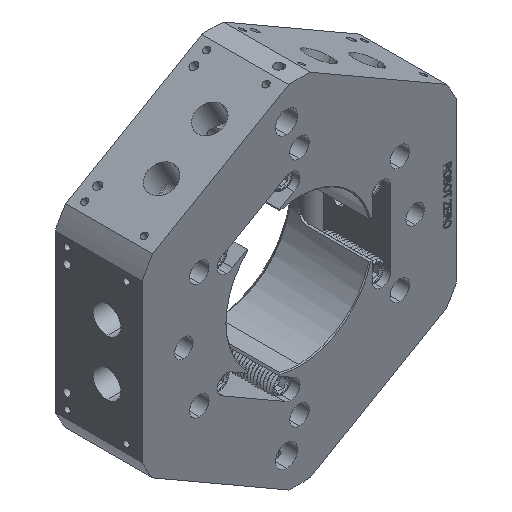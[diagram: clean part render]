
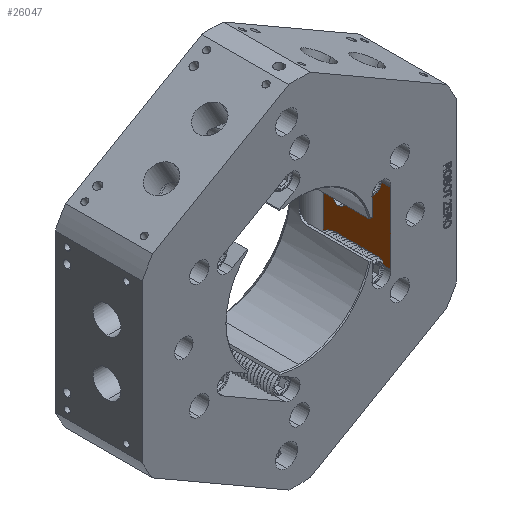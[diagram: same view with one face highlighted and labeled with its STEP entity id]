
A CAD part, isometric view. The second image highlights one B-rep face of the part: STEP entity #26047.
In plain terms, the highlighted planar face has unit normal (-1, 0, 0).
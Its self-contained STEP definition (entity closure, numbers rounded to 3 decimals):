
#208 = CARTESIAN_POINT ( 'NONE',  ( 49.28, 37.042, 20. ) ) ;
#289 = EDGE_CURVE ( 'NONE', #32047, #23185, #30197, .T. ) ;
#1299 = CARTESIAN_POINT ( 'NONE',  ( 49.28, 28., -3.4 ) ) ;
#1424 = CARTESIAN_POINT ( 'NONE',  ( 49.28, 37., 19.158 ) ) ;
#1519 = ORIENTED_EDGE ( 'NONE', *, *, #7314, .F. ) ;
#1543 = CARTESIAN_POINT ( 'NONE',  ( 49.28, 37., -19.158 ) ) ;
#2027 = CARTESIAN_POINT ( 'NONE',  ( 49.28, 43.62, 20. ) ) ;
#2578 = EDGE_CURVE ( 'NONE', #31906, #29662, #7698, .T. ) ;
#2931 = EDGE_CURVE ( 'NONE', #4708, #33048, #12475, .T. ) ;
#3308 = CARTESIAN_POINT ( 'NONE',  ( 49.28, 0., -19.158 ) ) ;
#4077 = AXIS2_PLACEMENT_3D ( 'NONE', #32969, #8544, #24964 ) ;
#4100 = DIRECTION ( 'NONE',  ( 0., -1., 0. ) ) ;
#4302 = ORIENTED_EDGE ( 'NONE', *, *, #2931, .F. ) ;
#4462 = CARTESIAN_POINT ( 'NONE',  ( 49.28, 0., 19.158 ) ) ;
#4482 = ORIENTED_EDGE ( 'NONE', *, *, #15899, .T. ) ;
#4708 = VERTEX_POINT ( 'NONE', #27405 ) ;
#5338 = VECTOR ( 'NONE', #27669, 1000. ) ;
#5803 = EDGE_CURVE ( 'NONE', #28402, #16219, #7535, .T. ) ;
#6391 = ORIENTED_EDGE ( 'NONE', *, *, #33456, .F. ) ;
#6454 = EDGE_LOOP ( 'NONE', ( #25505, #1519 ) ) ;
#6629 = CARTESIAN_POINT ( 'NONE',  ( 49.28, 38.59, 20. ) ) ;
#6752 = CARTESIAN_POINT ( 'NONE',  ( 49.28, 37.042, -20. ) ) ;
#6801 = ORIENTED_EDGE ( 'NONE', *, *, #7445, .F. ) ;
#6925 = LINE ( 'NONE', #14420, #8112 ) ;
#7028 = FACE_OUTER_BOUND ( 'NONE', #30229, .T. ) ;
#7314 = EDGE_CURVE ( 'NONE', #12530, #15115, #7982, .T. ) ;
#7445 = EDGE_CURVE ( 'NONE', #29662, #4708, #13825, .T. ) ;
#7535 = LINE ( 'NONE', #7722, #16758 ) ;
#7698 = LINE ( 'NONE', #16435, #9897 ) ;
#7722 = CARTESIAN_POINT ( 'NONE',  ( 49.28, 0., -19.158 ) ) ;
#7982 = CIRCLE ( 'NONE', #10820, 3.4 ) ;
#8112 = VECTOR ( 'NONE', #19967, 1000. ) ;
#8234 = DIRECTION ( 'NONE',  ( 0., -1., 0. ) ) ;
#8248 = DIRECTION ( 'NONE',  ( 0., -1., 0. ) ) ;
#8544 = DIRECTION ( 'NONE',  ( -1., 0., 0. ) ) ;
#8871 = EDGE_CURVE ( 'NONE', #15115, #12530, #31969, .T. ) ;
#9432 = CARTESIAN_POINT ( 'NONE',  ( 49.28, 37.028, -19.437 ) ) ;
#9897 = VECTOR ( 'NONE', #8234, 1000. ) ;
#10820 = AXIS2_PLACEMENT_3D ( 'NONE', #16958, #27870, #27509 ) ;
#11050 = LINE ( 'NONE', #21762, #5338 ) ;
#12475 = LINE ( 'NONE', #31040, #27078 ) ;
#12530 = VERTEX_POINT ( 'NONE', #21622 ) ;
#13742 = CARTESIAN_POINT ( 'NONE',  ( 49.28, 38.59, -20. ) ) ;
#13825 = B_SPLINE_CURVE_WITH_KNOTS ( 'NONE', 3,
 ( #17118, #14437, #25875, #1424 ),
 .UNSPECIFIED., .F., .F.,
 ( 4, 4 ),
 ( 0.002, 0.003 ),
 .UNSPECIFIED. ) ;
#13942 = CARTESIAN_POINT ( 'NONE',  ( 49.28, 43.62, -20. ) ) ;
#14420 = CARTESIAN_POINT ( 'NONE',  ( 49.28, 38.59, 20. ) ) ;
#14437 = CARTESIAN_POINT ( 'NONE',  ( 49.28, 37.042, 19.72 ) ) ;
#14776 = B_SPLINE_CURVE_WITH_KNOTS ( 'NONE', 3,
 ( #29063, #9432, #17458, #6752 ),
 .UNSPECIFIED., .F., .F.,
 ( 4, 4 ),
 ( 0.014, 0.015 ),
 .UNSPECIFIED. ) ;
#15115 = VERTEX_POINT ( 'NONE', #1299 ) ;
#15220 = ORIENTED_EDGE ( 'NONE', *, *, #5803, .F. ) ;
#15418 = EDGE_CURVE ( 'NONE', #33048, #28402, #11050, .T. ) ;
#15899 = EDGE_CURVE ( 'NONE', #31906, #32047, #6925, .T. ) ;
#16219 = VERTEX_POINT ( 'NONE', #1543 ) ;
#16435 = CARTESIAN_POINT ( 'NONE',  ( 49.28, 43.62, 20. ) ) ;
#16758 = VECTOR ( 'NONE', #18788, 1000. ) ;
#16958 = CARTESIAN_POINT ( 'NONE',  ( 49.28, 28., 0. ) ) ;
#17118 = CARTESIAN_POINT ( 'NONE',  ( 49.28, 37.042, 20. ) ) ;
#17458 = CARTESIAN_POINT ( 'NONE',  ( 49.28, 37.042, -19.72 ) ) ;
#18788 = DIRECTION ( 'NONE',  ( 0., 1., 0. ) ) ;
#19967 = DIRECTION ( 'NONE',  ( 0., 0., -1. ) ) ;
#21433 = AXIS2_PLACEMENT_3D ( 'NONE', #2027, #23629, #34513 ) ;
#21622 = CARTESIAN_POINT ( 'NONE',  ( 49.28, 28., 3.4 ) ) ;
#21762 = CARTESIAN_POINT ( 'NONE',  ( 49.28, 0., 20. ) ) ;
#22474 = CARTESIAN_POINT ( 'NONE',  ( 49.28, 37.042, -20. ) ) ;
#23185 = VERTEX_POINT ( 'NONE', #22474 ) ;
#23629 = DIRECTION ( 'NONE',  ( -1., 0., 0. ) ) ;
#24964 = DIRECTION ( 'NONE',  ( 0., 0., 1. ) ) ;
#25505 = ORIENTED_EDGE ( 'NONE', *, *, #8871, .F. ) ;
#25875 = CARTESIAN_POINT ( 'NONE',  ( 49.28, 37.028, 19.437 ) ) ;
#26047 = ADVANCED_FACE ( 'NONE', ( #34688, #7028 ), #29171, .T. ) ;
#27078 = VECTOR ( 'NONE', #4100, 1000. ) ;
#27405 = CARTESIAN_POINT ( 'NONE',  ( 49.28, 37., 19.158 ) ) ;
#27509 = DIRECTION ( 'NONE',  ( 0., 0., 1. ) ) ;
#27669 = DIRECTION ( 'NONE',  ( 0., 0., -1. ) ) ;
#27870 = DIRECTION ( 'NONE',  ( -1., 0., 0. ) ) ;
#28402 = VERTEX_POINT ( 'NONE', #3308 ) ;
#29063 = CARTESIAN_POINT ( 'NONE',  ( 49.28, 37., -19.158 ) ) ;
#29171 = PLANE ( 'NONE',  #21433 ) ;
#29662 = VERTEX_POINT ( 'NONE', #208 ) ;
#29810 = ORIENTED_EDGE ( 'NONE', *, *, #2578, .F. ) ;
#30197 = LINE ( 'NONE', #13942, #32744 ) ;
#30229 = EDGE_LOOP ( 'NONE', ( #15220, #32892, #4302, #6801, #29810, #4482, #32666, #6391 ) ) ;
#31040 = CARTESIAN_POINT ( 'NONE',  ( 49.28, 0., 19.158 ) ) ;
#31906 = VERTEX_POINT ( 'NONE', #6629 ) ;
#31969 = CIRCLE ( 'NONE', #4077, 3.4 ) ;
#32047 = VERTEX_POINT ( 'NONE', #13742 ) ;
#32666 = ORIENTED_EDGE ( 'NONE', *, *, #289, .T. ) ;
#32744 = VECTOR ( 'NONE', #8248, 1000. ) ;
#32892 = ORIENTED_EDGE ( 'NONE', *, *, #15418, .F. ) ;
#32969 = CARTESIAN_POINT ( 'NONE',  ( 49.28, 28., 0. ) ) ;
#33048 = VERTEX_POINT ( 'NONE', #4462 ) ;
#33456 = EDGE_CURVE ( 'NONE', #16219, #23185, #14776, .T. ) ;
#34513 = DIRECTION ( 'NONE',  ( 0., 0., 1. ) ) ;
#34688 = FACE_BOUND ( 'NONE', #6454, .T. ) ;
